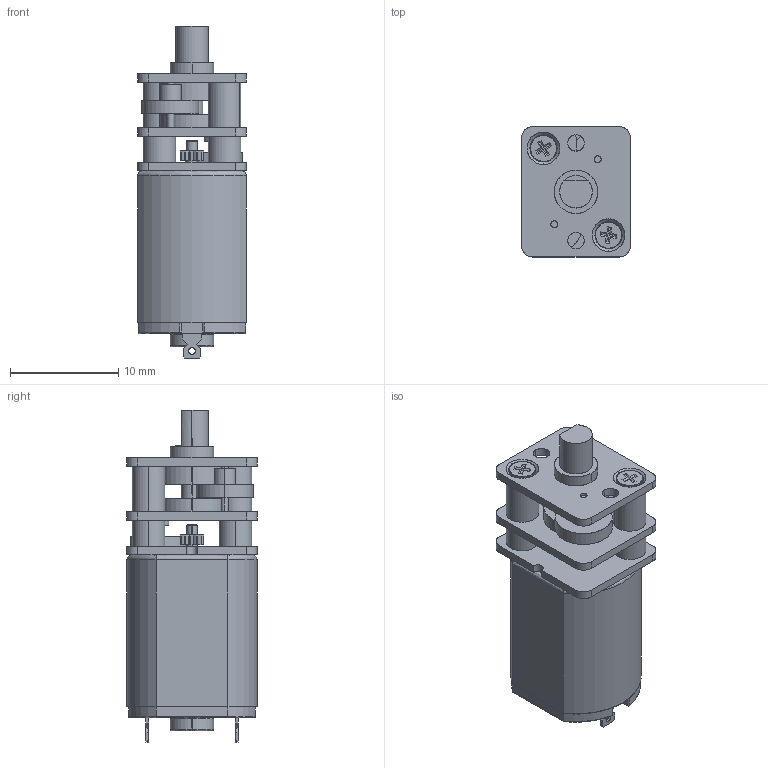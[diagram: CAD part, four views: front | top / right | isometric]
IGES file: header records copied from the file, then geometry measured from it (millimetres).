
Start section: SolidWorks IGES FILE using analytic representation for surfaces
Global section: file name: T:\Projects\Motor Stuff\Solidworks Motor Drawings\GM12\GM12_Assem.IGS; native system: SolidWorks 2003 by SolidWorks Corporation; preprocessor: Version 5.3; author: Administrator; date: 080406.234147; units: millimetre
Bounding box: 10 x 12 x 30.61 mm (x, y, z)
Surface area: 2252.2 mm2 (no closed solid volume)
Topology: 0 solids, 0 shells, 404 faces, 5106 edges, 5102 vertices
Faces by surface type: bspline 218, revolution 186
